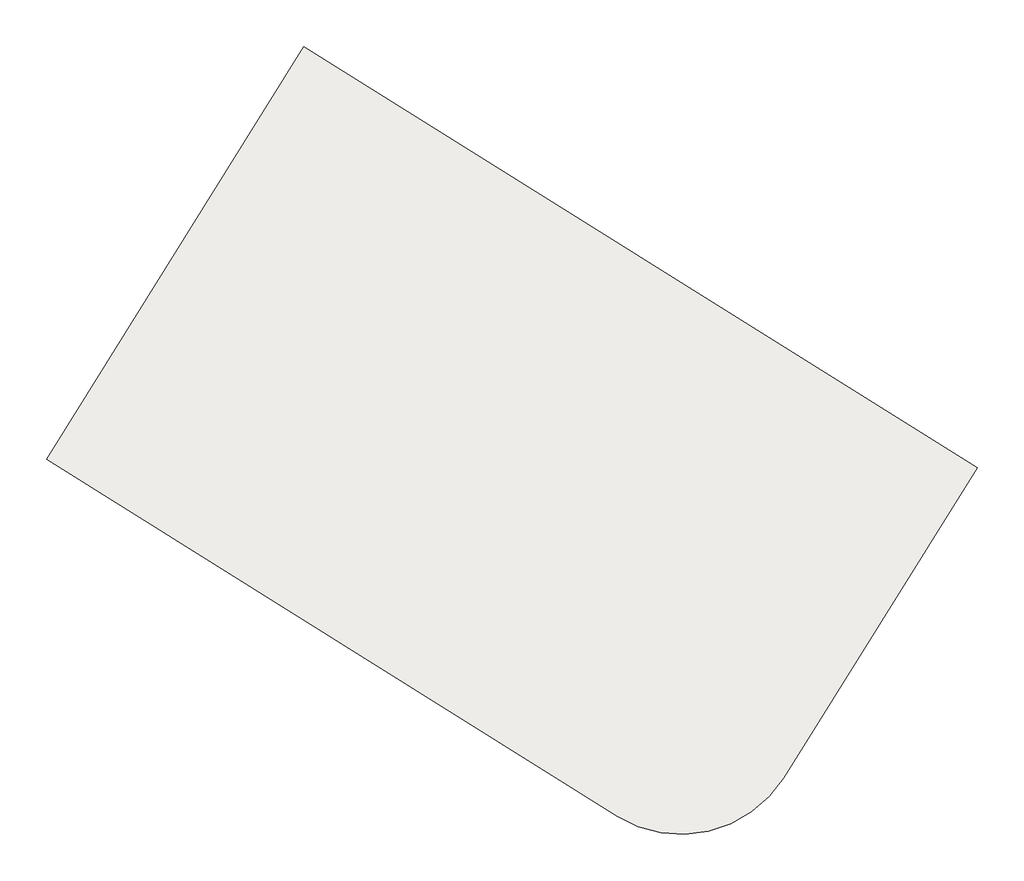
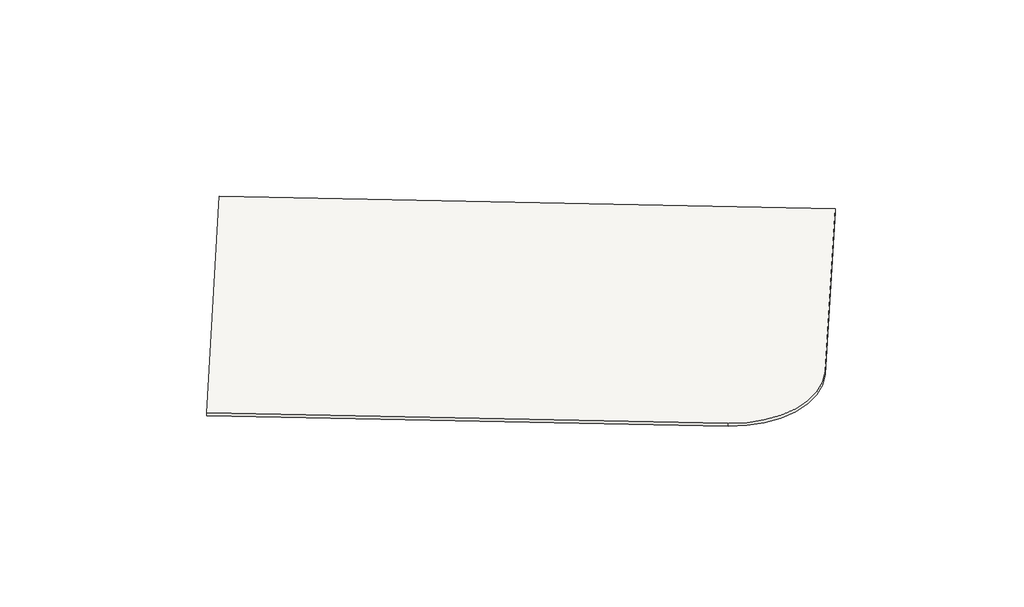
# One storey: 1 slab.
"""IFC4 building model written with IfcOpenShell, lengths in millimetres."""

from ifc_helpers import new_model, si_unit, point, frame, frame_2d, origin, place, context, project, spatial, polyline, circle_curve, trimmed, segment, composite_curve, outline, extrude, element, save

model = new_model("IFC4")

# Units and contexts
model_context = context("Model", 3, world=origin())
ifc_project = project(units=[si_unit("LENGTHUNIT", "METRE", prefix="MILLI")], contexts=[model_context])

# Site, building, storey
site = spatial("IfcSite", under=ifc_project)
building = spatial("IfcBuilding", under=site)
storey = spatial("IfcBuildingStorey", under=building, Name="\u200fگودال باغچه", Elevation=-3750.0)

# Slab
placement = place(None, origin())
element("IfcSlab", 1, ObjectType="Generic 150mm", at=placement, inside=storey, context=model_context, shape_type="SweptSolid", body=[
    extrude(outline(composite_curve([segment(polyline([(25100.771805, -24531.4615793), (46850.5276701, -38122.2174309), (40599.3931589, -48126.1238348)]), True, "CONTINUOUS"), segment(trimmed(circle_curve(frame_2d((37292.0055839, -46059.4387043)), 3900.0), [point((40599.3931589, -48126.1238348))], [point((35225.3204534, -49366.8262793))], False, "CARTESIAN"), True, "CONTINUOUS"), segment(polyline([(35225.3204534, -49366.8262793), (16806.6132688, -37857.5406578), (25100.771805, -24531.4615793)]), True, "CONTINUOUS")], self_intersect=False)), frame((0.0, 0.0, -3900.0), z_axis=(0.0, 0.0, 1.0), x_axis=(1.0, 0.0, 0.0)), (0.0, 0.0, 1.0), 150.0),
])

save(model, "model.ifc")
